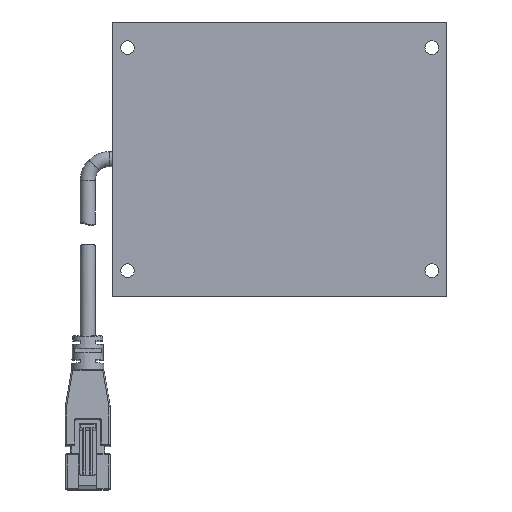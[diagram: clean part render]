
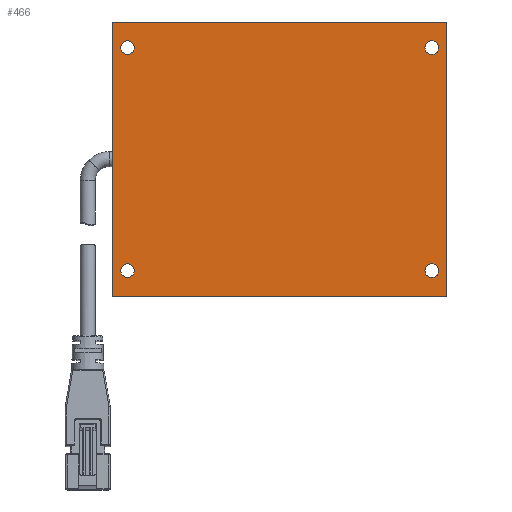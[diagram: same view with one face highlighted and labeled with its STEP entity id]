
A CAD part, front view. The second image highlights one B-rep face of the part: STEP entity #466.
In plain terms, the highlighted planar face has unit normal (0, -1, 0).
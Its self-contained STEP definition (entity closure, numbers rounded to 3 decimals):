
#1=CARTESIAN_POINT('',(-35.5,0.,-26.));
#2=DIRECTION('',(0.,-1.,0.));
#3=DIRECTION('',(1.,0.,0.));
#4=AXIS2_PLACEMENT_3D('',#1,#2,#3);
#6=CARTESIAN_POINT('',(-35.5,0.,-26.));
#7=DIRECTION('',(0.,-1.,0.));
#8=DIRECTION('',(-1.,0.,0.));
#9=AXIS2_PLACEMENT_3D('',#6,#7,#8);
#11=CARTESIAN_POINT('',(-35.5,0.,26.));
#12=DIRECTION('',(0.,-1.,0.));
#13=DIRECTION('',(-1.,0.,0.));
#14=AXIS2_PLACEMENT_3D('',#11,#12,#13);
#16=CARTESIAN_POINT('',(-35.5,0.,26.));
#17=DIRECTION('',(0.,-1.,0.));
#18=DIRECTION('',(1.,0.,0.));
#19=AXIS2_PLACEMENT_3D('',#16,#17,#18);
#21=CARTESIAN_POINT('',(35.5,0.,-26.));
#22=DIRECTION('',(0.,-1.,0.));
#23=DIRECTION('',(1.,0.,0.));
#24=AXIS2_PLACEMENT_3D('',#21,#22,#23);
#26=CARTESIAN_POINT('',(35.5,0.,-26.));
#27=DIRECTION('',(0.,-1.,0.));
#28=DIRECTION('',(-1.,0.,0.));
#29=AXIS2_PLACEMENT_3D('',#26,#27,#28);
#31=CARTESIAN_POINT('',(35.5,0.,26.));
#32=DIRECTION('',(0.,-1.,0.));
#33=DIRECTION('',(-1.,0.,0.));
#34=AXIS2_PLACEMENT_3D('',#31,#32,#33);
#36=CARTESIAN_POINT('',(35.5,0.,26.));
#37=DIRECTION('',(0.,-1.,0.));
#38=DIRECTION('',(1.,0.,0.));
#39=AXIS2_PLACEMENT_3D('',#36,#37,#38);
#41=DIRECTION('',(0.,0.,-1.));
#42=VECTOR('',#41,64.);
#43=CARTESIAN_POINT('',(-39.,0.,32.));
#44=LINE('',#43,#42);
#57=DIRECTION('',(1.,0.,0.));
#58=VECTOR('',#57,78.);
#59=CARTESIAN_POINT('',(-39.,0.,-32.));
#60=LINE('',#59,#58);
#109=DIRECTION('',(-1.,0.,0.));
#110=VECTOR('',#109,78.);
#111=CARTESIAN_POINT('',(39.,0.,32.));
#112=LINE('',#111,#110);
#303=DIRECTION('',(0.,0.,1.));
#304=VECTOR('',#303,64.);
#305=CARTESIAN_POINT('',(39.,0.,-32.));
#306=LINE('',#305,#304);
#327=CARTESIAN_POINT('',(-39.,0.,32.));
#328=CARTESIAN_POINT('',(-39.,0.,-32.));
#329=VERTEX_POINT('',#327);
#330=VERTEX_POINT('',#328);
#331=CARTESIAN_POINT('',(39.,0.,32.));
#332=VERTEX_POINT('',#331);
#333=CARTESIAN_POINT('',(39.,0.,-32.));
#334=VERTEX_POINT('',#333);
#335=CARTESIAN_POINT('',(-33.9,0.,-26.));
#336=CARTESIAN_POINT('',(-37.1,0.,-26.));
#337=VERTEX_POINT('',#335);
#338=VERTEX_POINT('',#336);
#339=CARTESIAN_POINT('',(-37.1,0.,26.));
#340=CARTESIAN_POINT('',(-33.9,0.,26.));
#341=VERTEX_POINT('',#339);
#342=VERTEX_POINT('',#340);
#343=CARTESIAN_POINT('',(37.1,0.,-26.));
#344=CARTESIAN_POINT('',(33.9,0.,-26.));
#345=VERTEX_POINT('',#343);
#346=VERTEX_POINT('',#344);
#347=CARTESIAN_POINT('',(33.9,0.,26.));
#348=CARTESIAN_POINT('',(37.1,0.,26.));
#349=VERTEX_POINT('',#347);
#350=VERTEX_POINT('',#348);
#427=CARTESIAN_POINT('',(0.,0.,0.));
#428=DIRECTION('',(0.,1.,0.));
#429=DIRECTION('',(1.,0.,0.));
#430=AXIS2_PLACEMENT_3D('',#427,#428,#429);
#431=PLANE('',#430);
#433=ORIENTED_EDGE('',*,*,#432,.F.);
#435=ORIENTED_EDGE('',*,*,#434,.F.);
#437=ORIENTED_EDGE('',*,*,#436,.F.);
#439=ORIENTED_EDGE('',*,*,#438,.F.);
#440=EDGE_LOOP('',(#433,#435,#437,#439));
#441=FACE_OUTER_BOUND('',#440,.F.);
#443=ORIENTED_EDGE('',*,*,#442,.T.);
#445=ORIENTED_EDGE('',*,*,#444,.T.);
#446=EDGE_LOOP('',(#443,#445));
#447=FACE_BOUND('',#446,.F.);
#449=ORIENTED_EDGE('',*,*,#448,.T.);
#451=ORIENTED_EDGE('',*,*,#450,.T.);
#452=EDGE_LOOP('',(#449,#451));
#453=FACE_BOUND('',#452,.F.);
#455=ORIENTED_EDGE('',*,*,#454,.T.);
#457=ORIENTED_EDGE('',*,*,#456,.T.);
#458=EDGE_LOOP('',(#455,#457));
#459=FACE_BOUND('',#458,.F.);
#461=ORIENTED_EDGE('',*,*,#460,.T.);
#463=ORIENTED_EDGE('',*,*,#462,.T.);
#464=EDGE_LOOP('',(#461,#463));
#465=FACE_BOUND('',#464,.F.);
#5=CIRCLE('',#4,1.6);
#10=CIRCLE('',#9,1.6);
#15=CIRCLE('',#14,1.6);
#20=CIRCLE('',#19,1.6);
#25=CIRCLE('',#24,1.6);
#30=CIRCLE('',#29,1.6);
#35=CIRCLE('',#34,1.6);
#40=CIRCLE('',#39,1.6);
#432=EDGE_CURVE('',#329,#330,#44,.T.);
#434=EDGE_CURVE('',#332,#329,#112,.T.);
#436=EDGE_CURVE('',#334,#332,#306,.T.);
#438=EDGE_CURVE('',#330,#334,#60,.T.);
#442=EDGE_CURVE('',#337,#338,#5,.T.);
#444=EDGE_CURVE('',#338,#337,#10,.T.);
#448=EDGE_CURVE('',#341,#342,#15,.T.);
#450=EDGE_CURVE('',#342,#341,#20,.T.);
#454=EDGE_CURVE('',#345,#346,#25,.T.);
#456=EDGE_CURVE('',#346,#345,#30,.T.);
#460=EDGE_CURVE('',#349,#350,#35,.T.);
#462=EDGE_CURVE('',#350,#349,#40,.T.);
#466=ADVANCED_FACE('',(#441,#447,#453,#459,#465),#431,.F.);
